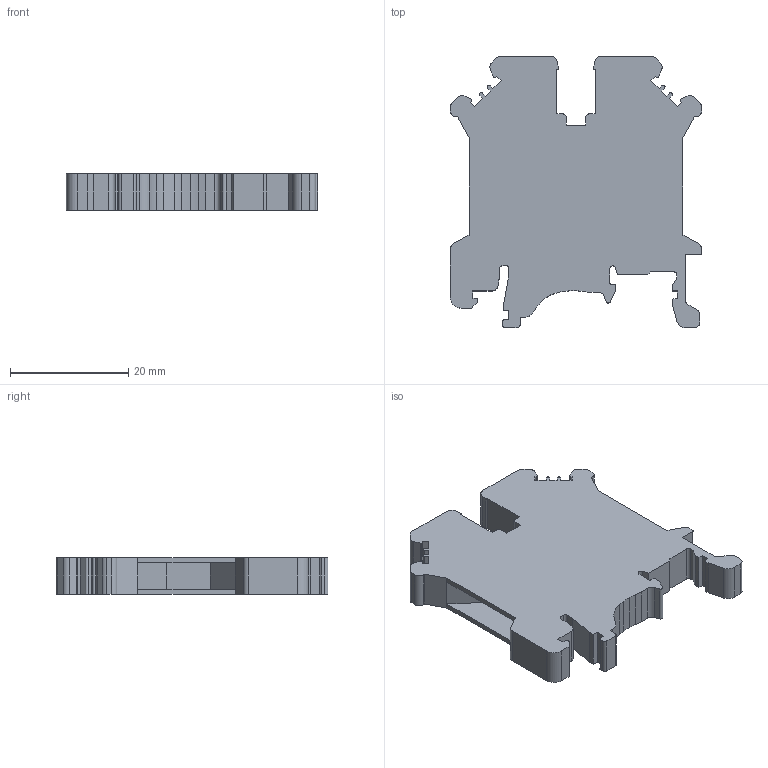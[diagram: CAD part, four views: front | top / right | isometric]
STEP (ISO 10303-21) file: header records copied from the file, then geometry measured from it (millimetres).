
FILE_DESCRIPTION((''),'2;1');
FILE_NAME('PRT0016','2020-04-20T',('Administrator'),(''),'PRO/ENGINEER BY PARAMETRIC TECHNOLOGY CORPORATION, 2010280','PRO/ENGINEER BY PARAMETRIC TECHNOLOGY CORPORATION, 2010280','');
FILE_SCHEMA(('CONFIG_CONTROL_DESIGN'));
Length unit declared in the file: millimetre
Products named in the file (1): PRT0016
Bounding box: 42.5 x 46 x 6.2 mm (x, y, z)
Volume: 7806.5 mm3; surface area: 4813.8 mm2
Topology: 1 solids, 1 shells, 185 faces, 561 edges, 380 vertices
Faces by surface type: plane 121, cylinder 60, cone 4
Entity records: 6359 total; most frequent: CARTESIAN_POINT 1126, ORIENTED_EDGE 1122, DIRECTION 1073, EDGE_CURVE 561, VECTOR 419, LINE 419, VERTEX_POINT 380, AXIS2_PLACEMENT_3D 327
